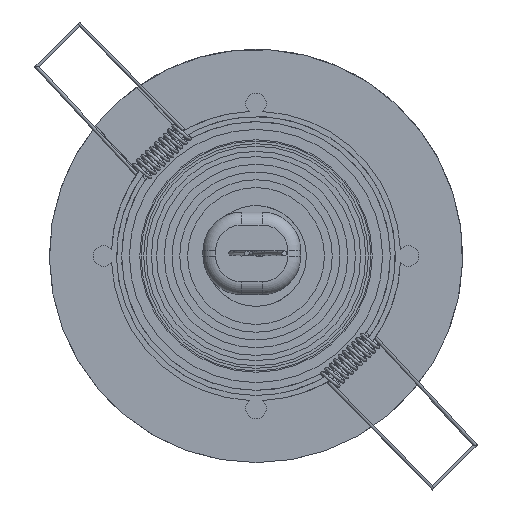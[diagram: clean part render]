
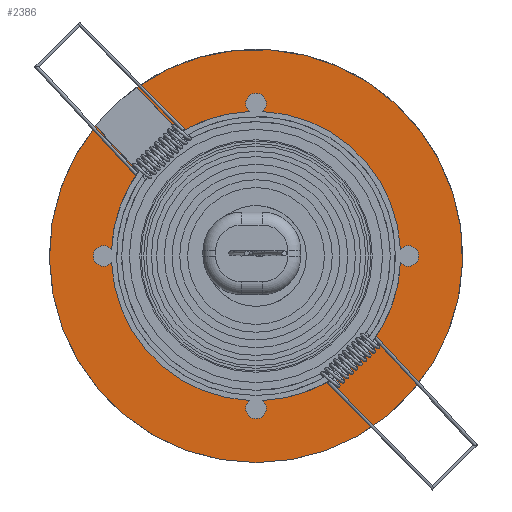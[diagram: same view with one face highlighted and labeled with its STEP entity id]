
A CAD part, left-side view. The second image highlights one B-rep face of the part: STEP entity #2386.
In plain terms, the highlighted planar face has unit normal (-1, 0, 0).
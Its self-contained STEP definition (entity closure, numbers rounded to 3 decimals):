
#191=PLANE('',#2661);
#319=FACE_OUTER_BOUND('',#486,.T.);
#486=EDGE_LOOP('',(#2050,#2051,#2052,#2053,#2054,#2055,#2056,#2057,#2058,
#2059,#2060,#2061,#2062,#2063,#2064,#2065,#2066));
#619=LINE('',#7327,#775);
#624=LINE('',#7338,#780);
#631=LINE('',#7351,#787);
#645=LINE('',#7387,#801);
#647=LINE('',#7393,#803);
#775=VECTOR('',#3262,10.);
#780=VECTOR('',#3269,10.);
#787=VECTOR('',#3278,10.);
#801=VECTOR('',#3310,10.);
#803=VECTOR('',#3318,10.);
#906=CIRCLE('',#2615,28.);
#908=CIRCLE('',#2617,28.);
#926=CIRCLE('',#2659,40.);
#927=CIRCLE('',#2660,40.);
#928=CIRCLE('',#2662,2.);
#929=CIRCLE('',#2663,28.);
#930=CIRCLE('',#2664,2.);
#931=CIRCLE('',#2665,28.);
#932=CIRCLE('',#2666,28.);
#933=CIRCLE('',#2667,2.);
#934=CIRCLE('',#2668,28.);
#935=CIRCLE('',#2669,2.);
#1097=VERTEX_POINT('',#7244);
#1098=VERTEX_POINT('',#7246);
#1101=VERTEX_POINT('',#7252);
#1102=VERTEX_POINT('',#7254);
#1122=VERTEX_POINT('',#7325);
#1123=VERTEX_POINT('',#7326);
#1126=VERTEX_POINT('',#7334);
#1128=VERTEX_POINT('',#7337);
#1143=VERTEX_POINT('',#7378);
#1146=VERTEX_POINT('',#7385);
#1151=VERTEX_POINT('',#7402);
#1152=VERTEX_POINT('',#7407);
#1153=VERTEX_POINT('',#7409);
#1154=VERTEX_POINT('',#7411);
#1155=VERTEX_POINT('',#7414);
#1156=VERTEX_POINT('',#7416);
#1157=VERTEX_POINT('',#7418);
#1393=EDGE_CURVE('',#1097,#1098,#906,.T.);
#1397=EDGE_CURVE('',#1101,#1102,#908,.T.);
#1433=EDGE_CURVE('',#1122,#1123,#619,.T.);
#1438=EDGE_CURVE('',#1128,#1126,#624,.T.);
#1445=EDGE_CURVE('',#1123,#1098,#631,.T.);
#1464=EDGE_CURVE('',#1143,#1146,#645,.T.);
#1467=EDGE_CURVE('',#1101,#1122,#647,.T.);
#1473=EDGE_CURVE('',#1126,#1151,#926,.T.);
#1474=EDGE_CURVE('',#1151,#1143,#927,.T.);
#1475=EDGE_CURVE('',#1097,#1152,#928,.T.);
#1476=EDGE_CURVE('',#1153,#1152,#929,.T.);
#1477=EDGE_CURVE('',#1153,#1154,#930,.T.);
#1478=EDGE_CURVE('',#1128,#1154,#931,.T.);
#1479=EDGE_CURVE('',#1155,#1146,#932,.T.);
#1480=EDGE_CURVE('',#1155,#1156,#933,.T.);
#1481=EDGE_CURVE('',#1157,#1156,#934,.T.);
#1482=EDGE_CURVE('',#1157,#1102,#935,.T.);
#2050=ORIENTED_EDGE('',*,*,#1467,.T.);
#2051=ORIENTED_EDGE('',*,*,#1433,.T.);
#2052=ORIENTED_EDGE('',*,*,#1445,.T.);
#2053=ORIENTED_EDGE('',*,*,#1393,.F.);
#2054=ORIENTED_EDGE('',*,*,#1475,.T.);
#2055=ORIENTED_EDGE('',*,*,#1476,.F.);
#2056=ORIENTED_EDGE('',*,*,#1477,.T.);
#2057=ORIENTED_EDGE('',*,*,#1478,.F.);
#2058=ORIENTED_EDGE('',*,*,#1438,.T.);
#2059=ORIENTED_EDGE('',*,*,#1473,.T.);
#2060=ORIENTED_EDGE('',*,*,#1474,.T.);
#2061=ORIENTED_EDGE('',*,*,#1464,.T.);
#2062=ORIENTED_EDGE('',*,*,#1479,.F.);
#2063=ORIENTED_EDGE('',*,*,#1480,.T.);
#2064=ORIENTED_EDGE('',*,*,#1481,.F.);
#2065=ORIENTED_EDGE('',*,*,#1482,.T.);
#2066=ORIENTED_EDGE('',*,*,#1397,.F.);
#2386=ADVANCED_FACE('',(#319),#191,.T.);
#2615=AXIS2_PLACEMENT_3D('',#7247,#3179,#3180);
#2617=AXIS2_PLACEMENT_3D('',#7255,#3185,#3186);
#2659=AXIS2_PLACEMENT_3D('',#7404,#3327,#3328);
#2660=AXIS2_PLACEMENT_3D('',#7405,#3329,#3330);
#2661=AXIS2_PLACEMENT_3D('',#7406,#3331,#3332);
#2662=AXIS2_PLACEMENT_3D('',#7408,#3333,#3334);
#2663=AXIS2_PLACEMENT_3D('',#7410,#3335,#3336);
#2664=AXIS2_PLACEMENT_3D('',#7412,#3337,#3338);
#2665=AXIS2_PLACEMENT_3D('',#7413,#3339,#3340);
#2666=AXIS2_PLACEMENT_3D('',#7415,#3341,#3342);
#2667=AXIS2_PLACEMENT_3D('',#7417,#3343,#3344);
#2668=AXIS2_PLACEMENT_3D('',#7419,#3345,#3346);
#2669=AXIS2_PLACEMENT_3D('',#7420,#3347,#3348);
#3179=DIRECTION('center_axis',(-1.,0.,0.));
#3180=DIRECTION('ref_axis',(0.,0.,
1.));
#3185=DIRECTION('center_axis',(-1.,0.,0.));
#3186=DIRECTION('ref_axis',(0.,0.,
1.));
#3262=DIRECTION('',(0.,0.731,-0.683));
#3269=DIRECTION('',(0.,0.683,0.731));
#3278=DIRECTION('',(0.,0.683,0.731));
#3310=DIRECTION('',(0.,-0.683,-0.731));
#3318=DIRECTION('',(0.,-0.683,-0.731));
#3327=DIRECTION('center_axis',(-1.,0.,0.));
#3328=DIRECTION('ref_axis',(0.,0.,
1.));
#3329=DIRECTION('center_axis',(-1.,0.,0.));
#3330=DIRECTION('ref_axis',(0.,0.,
1.));
#3331=DIRECTION('center_axis',(-1.,0.,0.));
#3332=DIRECTION('ref_axis',(0.,0.,
1.));
#3333=DIRECTION('center_axis',(1.,0.,0.));
#3334=DIRECTION('ref_axis',(0.,0.644,0.765));
#3335=DIRECTION('center_axis',(-1.,0.,0.));
#3336=DIRECTION('ref_axis',(0.,0.,
1.));
#3337=DIRECTION('center_axis',(1.,0.,0.));
#3338=DIRECTION('ref_axis',(0.,-0.765,0.644));
#3339=DIRECTION('center_axis',(-1.,0.,0.));
#3340=DIRECTION('ref_axis',(0.,0.,
1.));
#3341=DIRECTION('center_axis',(-1.,0.,0.));
#3342=DIRECTION('ref_axis',(0.,0.,
1.));
#3343=DIRECTION('center_axis',(1.,0.,0.));
#3344=DIRECTION('ref_axis',(0.,-0.644,-0.765));
#3345=DIRECTION('center_axis',(-1.,0.,0.));
#3346=DIRECTION('ref_axis',(0.,0.,
1.));
#3347=DIRECTION('center_axis',(1.,0.,0.));
#3348=DIRECTION('ref_axis',(0.,0.765,-0.644));
#7244=CARTESIAN_POINT('',(730.967,-1030.704,13.952));
#7246=CARTESIAN_POINT('',(730.967,-1044.144,18.109));
#7247=CARTESIAN_POINT('Origin',(730.967,-1029.416,41.922));
#7252=CARTESIAN_POINT('',(730.967,-1052.18,25.62));
#7254=CARTESIAN_POINT('',(730.967,-1057.386,40.634));
#7255=CARTESIAN_POINT('Origin',(730.967,-1029.416,41.922));
#7325=CARTESIAN_POINT('',(730.967,-1052.553,25.221));
#7326=CARTESIAN_POINT('',(730.967,-1044.516,17.71));
#7327=CARTESIAN_POINT('',(730.967,-1048.352,21.295));
#7334=CARTESIAN_POINT('',(730.967,-998.344,67.112));
#7337=CARTESIAN_POINT('',(730.967,-1006.651,58.224));
#7338=CARTESIAN_POINT('',(730.967,-1034.957,27.938));
#7351=CARTESIAN_POINT('',(730.967,-1034.957,27.938));
#7378=CARTESIAN_POINT('',(730.967,-1006.38,74.623));
#7385=CARTESIAN_POINT('',(730.967,-1014.687,65.735));
#7387=CARTESIAN_POINT('',(730.967,-1042.993,35.449));
#7393=CARTESIAN_POINT('',(730.967,-1042.993,35.449));
#7402=CARTESIAN_POINT('',(730.967,-1029.416,1.922));
#7404=CARTESIAN_POINT('Origin',(730.967,-1029.416,41.922));
#7405=CARTESIAN_POINT('Origin',(730.967,-1029.416,41.922));
#7406=CARTESIAN_POINT('Origin',(730.967,-1029.416,41.922));
#7407=CARTESIAN_POINT('',(730.967,-1028.127,13.952));
#7408=CARTESIAN_POINT('Origin',(730.967,-1029.416,12.422));
#7409=CARTESIAN_POINT('',(730.967,-1001.445,40.634));
#7410=CARTESIAN_POINT('Origin',(730.967,-1029.416,41.922));
#7411=CARTESIAN_POINT('',(730.967,-1001.445,43.21));
#7412=CARTESIAN_POINT('Origin',(730.967,-999.916,41.922));
#7413=CARTESIAN_POINT('Origin',(730.967,-1029.416,41.922));
#7414=CARTESIAN_POINT('',(730.967,-1028.127,69.892));
#7415=CARTESIAN_POINT('Origin',(730.967,-1029.416,41.922));
#7416=CARTESIAN_POINT('',(730.967,-1030.704,69.892));
#7417=CARTESIAN_POINT('Origin',(730.967,-1029.416,71.422));
#7418=CARTESIAN_POINT('',(730.967,-1057.386,43.21));
#7419=CARTESIAN_POINT('Origin',(730.967,-1029.416,41.922));
#7420=CARTESIAN_POINT('Origin',(730.967,-1058.916,41.922));
